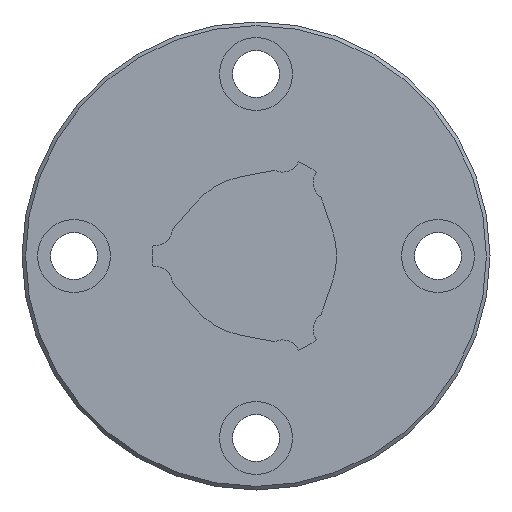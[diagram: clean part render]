
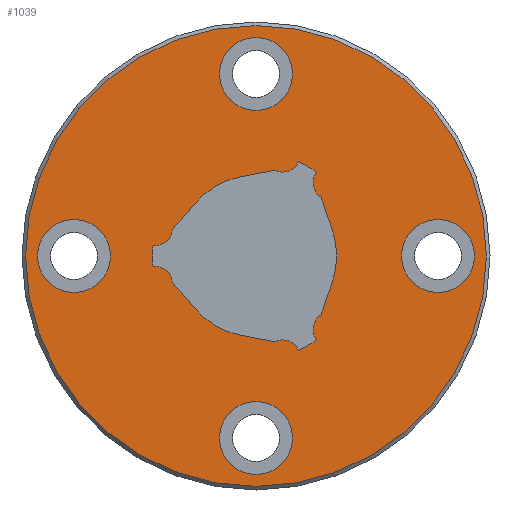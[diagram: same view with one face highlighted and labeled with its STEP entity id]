
A CAD part, left-side view. The second image highlights one B-rep face of the part: STEP entity #1039.
In plain terms, the highlighted planar face has unit normal (-1, 0, 0).
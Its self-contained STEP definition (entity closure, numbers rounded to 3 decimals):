
#45=PLANE('',#1156);
#91=LINE('',#1728,#151);
#92=LINE('',#1737,#152);
#93=LINE('',#1741,#153);
#94=LINE('',#1749,#154);
#95=LINE('',#1753,#155);
#96=LINE('',#1761,#156);
#151=VECTOR('',#1389,1000.);
#152=VECTOR('',#1396,1000.);
#153=VECTOR('',#1399,1000.);
#154=VECTOR('',#1406,1000.);
#155=VECTOR('',#1409,1000.);
#156=VECTOR('',#1416,1000.);
#289=ORIENTED_EDGE('',*,*,#513,.F.);
#290=ORIENTED_EDGE('',*,*,#514,.F.);
#291=ORIENTED_EDGE('',*,*,#515,.T.);
#292=ORIENTED_EDGE('',*,*,#516,.T.);
#293=ORIENTED_EDGE('',*,*,#517,.T.);
#294=ORIENTED_EDGE('',*,*,#518,.T.);
#295=ORIENTED_EDGE('',*,*,#519,.F.);
#296=ORIENTED_EDGE('',*,*,#520,.T.);
#297=ORIENTED_EDGE('',*,*,#521,.F.);
#298=ORIENTED_EDGE('',*,*,#522,.T.);
#299=ORIENTED_EDGE('',*,*,#523,.T.);
#300=ORIENTED_EDGE('',*,*,#524,.T.);
#301=ORIENTED_EDGE('',*,*,#525,.F.);
#302=ORIENTED_EDGE('',*,*,#526,.T.);
#303=ORIENTED_EDGE('',*,*,#527,.F.);
#304=ORIENTED_EDGE('',*,*,#528,.T.);
#305=ORIENTED_EDGE('',*,*,#529,.T.);
#306=ORIENTED_EDGE('',*,*,#530,.T.);
#307=ORIENTED_EDGE('',*,*,#531,.F.);
#308=ORIENTED_EDGE('',*,*,#532,.T.);
#309=ORIENTED_EDGE('',*,*,#533,.F.);
#310=ORIENTED_EDGE('',*,*,#534,.T.);
#311=ORIENTED_EDGE('',*,*,#535,.T.);
#513=EDGE_CURVE('',#634,#634,#725,.T.);
#514=EDGE_CURVE('',#635,#635,#726,.F.);
#515=EDGE_CURVE('',#636,#636,#727,.T.);
#516=EDGE_CURVE('',#637,#637,#728,.T.);
#517=EDGE_CURVE('',#638,#638,#729,.T.);
#518=EDGE_CURVE('',#639,#640,#91,.T.);
#519=EDGE_CURVE('',#641,#640,#730,.T.);
#520=EDGE_CURVE('',#641,#642,#731,.T.);
#521=EDGE_CURVE('',#643,#642,#732,.T.);
#522=EDGE_CURVE('',#643,#644,#92,.T.);
#523=EDGE_CURVE('',#644,#645,#733,.T.);
#524=EDGE_CURVE('',#645,#646,#93,.T.);
#525=EDGE_CURVE('',#647,#646,#734,.T.);
#526=EDGE_CURVE('',#647,#648,#735,.T.);
#527=EDGE_CURVE('',#649,#648,#736,.T.);
#528=EDGE_CURVE('',#649,#650,#94,.T.);
#529=EDGE_CURVE('',#650,#651,#737,.T.);
#530=EDGE_CURVE('',#651,#652,#95,.T.);
#531=EDGE_CURVE('',#653,#652,#738,.T.);
#532=EDGE_CURVE('',#653,#654,#739,.T.);
#533=EDGE_CURVE('',#655,#654,#740,.T.);
#534=EDGE_CURVE('',#655,#656,#96,.T.);
#535=EDGE_CURVE('',#656,#639,#741,.T.);
#634=VERTEX_POINT('',#1719);
#635=VERTEX_POINT('',#1721);
#636=VERTEX_POINT('',#1723);
#637=VERTEX_POINT('',#1725);
#638=VERTEX_POINT('',#1727);
#639=VERTEX_POINT('',#1729);
#640=VERTEX_POINT('',#1730);
#641=VERTEX_POINT('',#1732);
#642=VERTEX_POINT('',#1734);
#643=VERTEX_POINT('',#1736);
#644=VERTEX_POINT('',#1738);
#645=VERTEX_POINT('',#1740);
#646=VERTEX_POINT('',#1742);
#647=VERTEX_POINT('',#1744);
#648=VERTEX_POINT('',#1746);
#649=VERTEX_POINT('',#1748);
#650=VERTEX_POINT('',#1750);
#651=VERTEX_POINT('',#1752);
#652=VERTEX_POINT('',#1754);
#653=VERTEX_POINT('',#1756);
#654=VERTEX_POINT('',#1758);
#655=VERTEX_POINT('',#1760);
#656=VERTEX_POINT('',#1762);
#725=CIRCLE('',#1157,44.3);
#726=CIRCLE('',#1158,7.);
#727=CIRCLE('',#1159,7.);
#728=CIRCLE('',#1160,7.);
#729=CIRCLE('',#1161,7.);
#730=CIRCLE('',#1162,3.3);
#731=CIRCLE('',#1163,19.9);
#732=CIRCLE('',#1164,3.3);
#733=CIRCLE('',#1165,15.5);
#734=CIRCLE('',#1166,3.3);
#735=CIRCLE('',#1167,19.9);
#736=CIRCLE('',#1168,3.3);
#737=CIRCLE('',#1169,15.5);
#738=CIRCLE('',#1170,3.3);
#739=CIRCLE('',#1171,19.9);
#740=CIRCLE('',#1172,3.3);
#741=CIRCLE('',#1173,15.5);
#797=EDGE_LOOP('',(#289));
#798=EDGE_LOOP('',(#290));
#799=EDGE_LOOP('',(#291));
#800=EDGE_LOOP('',(#292));
#801=EDGE_LOOP('',(#293));
#802=EDGE_LOOP('',(#294,#295,#296,#297,#298,#299,#300,#301,#302,#303,#304,
#305,#306,#307,#308,#309,#310,#311));
#899=FACE_BOUND('',#797,.T.);
#900=FACE_BOUND('',#798,.T.);
#901=FACE_BOUND('',#799,.T.);
#902=FACE_BOUND('',#800,.T.);
#903=FACE_BOUND('',#801,.T.);
#904=FACE_BOUND('',#802,.T.);
#1039=ADVANCED_FACE('',(#899,#900,#901,#902,#903,#904),#45,.F.);
#1156=AXIS2_PLACEMENT_3D('',#1717,#1377,#1378);
#1157=AXIS2_PLACEMENT_3D('',#1718,#1379,#1380);
#1158=AXIS2_PLACEMENT_3D('',#1720,#1381,#1382);
#1159=AXIS2_PLACEMENT_3D('',#1722,#1383,#1384);
#1160=AXIS2_PLACEMENT_3D('',#1724,#1385,#1386);
#1161=AXIS2_PLACEMENT_3D('',#1726,#1387,#1388);
#1162=AXIS2_PLACEMENT_3D('',#1731,#1390,#1391);
#1163=AXIS2_PLACEMENT_3D('',#1733,#1392,#1393);
#1164=AXIS2_PLACEMENT_3D('',#1735,#1394,#1395);
#1165=AXIS2_PLACEMENT_3D('',#1739,#1397,#1398);
#1166=AXIS2_PLACEMENT_3D('',#1743,#1400,#1401);
#1167=AXIS2_PLACEMENT_3D('',#1745,#1402,#1403);
#1168=AXIS2_PLACEMENT_3D('',#1747,#1404,#1405);
#1169=AXIS2_PLACEMENT_3D('',#1751,#1407,#1408);
#1170=AXIS2_PLACEMENT_3D('',#1755,#1410,#1411);
#1171=AXIS2_PLACEMENT_3D('',#1757,#1412,#1413);
#1172=AXIS2_PLACEMENT_3D('',#1759,#1414,#1415);
#1173=AXIS2_PLACEMENT_3D('',#1763,#1417,#1418);
#1377=DIRECTION('',(1.,0.,0.));
#1378=DIRECTION('',(0.,1.,0.));
#1379=DIRECTION('',(1.,0.,0.));
#1380=DIRECTION('',(0.,1.,0.));
#1381=DIRECTION('',(1.,0.,0.));
#1382=DIRECTION('',(0.,1.,0.));
#1383=DIRECTION('',(1.,0.,0.));
#1384=DIRECTION('',(0.,0.,-1.));
#1385=DIRECTION('',(1.,0.,0.));
#1386=DIRECTION('',(0.,0.,-1.));
#1387=DIRECTION('',(1.,0.,0.));
#1388=DIRECTION('',(0.,0.,-1.));
#1389=DIRECTION('',(0.,-0.982,0.191));
#1390=DIRECTION('',(1.,0.,0.));
#1391=DIRECTION('',(0.,0.,-1.));
#1392=DIRECTION('',(1.,0.,0.));
#1393=DIRECTION('',(0.,0.,-1.));
#1394=DIRECTION('',(1.,0.,0.));
#1395=DIRECTION('',(0.,0.,-1.));
#1396=DIRECTION('',(0.,-0.326,-0.946));
#1397=DIRECTION('',(1.,0.,0.));
#1398=DIRECTION('',(0.,0.,-1.));
#1399=DIRECTION('',(0.,0.326,-0.946));
#1400=DIRECTION('',(1.,0.,0.));
#1401=DIRECTION('',(0.,0.,-1.));
#1402=DIRECTION('',(1.,0.,0.));
#1403=DIRECTION('',(0.,0.,-1.));
#1404=DIRECTION('',(1.,0.,0.));
#1405=DIRECTION('',(0.,0.,-1.));
#1406=DIRECTION('',(0.,0.982,0.191));
#1407=DIRECTION('',(1.,0.,0.));
#1408=DIRECTION('',(0.,0.,-1.));
#1409=DIRECTION('',(0.,0.656,0.755));
#1410=DIRECTION('',(1.,0.,0.));
#1411=DIRECTION('',(0.,0.,-1.));
#1412=DIRECTION('',(1.,0.,0.));
#1413=DIRECTION('',(0.,0.,-1.));
#1414=DIRECTION('',(1.,0.,0.));
#1415=DIRECTION('',(0.,0.,-1.));
#1416=DIRECTION('',(0.,-0.656,0.755));
#1417=DIRECTION('',(1.,0.,0.));
#1418=DIRECTION('',(0.,0.,-1.));
#1717=CARTESIAN_POINT('',(0.,0.,0.));
#1718=CARTESIAN_POINT('',(0.,0.,0.));
#1719=CARTESIAN_POINT('',(0.,44.3,0.));
#1720=CARTESIAN_POINT('',(0.,35.,0.));
#1721=CARTESIAN_POINT('',(0.,42.,0.));
#1722=CARTESIAN_POINT('',(0.,0.,35.));
#1723=CARTESIAN_POINT('',(0.,0.,28.));
#1724=CARTESIAN_POINT('',(0.,-35.,0.));
#1725=CARTESIAN_POINT('',(0.,-35.,-7.));
#1726=CARTESIAN_POINT('',(0.,0.,-35.));
#1727=CARTESIAN_POINT('',(0.,0.,-42.));
#1728=CARTESIAN_POINT('',(0.,2.958,15.215));
#1729=CARTESIAN_POINT('',(0.,2.958,15.215));
#1730=CARTESIAN_POINT('',(0.,-3.606,16.491));
#1731=CARTESIAN_POINT('',(0.,-5.114,19.427));
#1732=CARTESIAN_POINT('',(0.,-8.157,18.151));
#1733=CARTESIAN_POINT('',(0.,0.,0.));
#1734=CARTESIAN_POINT('',(0.,-11.641,16.14));
#1735=CARTESIAN_POINT('',(0.,-14.267,14.142));
#1736=CARTESIAN_POINT('',(0.,-12.479,11.369));
#1737=CARTESIAN_POINT('',(0.,-12.479,11.369));
#1738=CARTESIAN_POINT('',(0.,-14.656,5.046));
#1739=CARTESIAN_POINT('',(0.,0.,0.));
#1740=CARTESIAN_POINT('',(0.,-14.656,-5.046));
#1741=CARTESIAN_POINT('',(0.,-14.656,-5.046));
#1742=CARTESIAN_POINT('',(0.,-12.479,-11.369));
#1743=CARTESIAN_POINT('',(0.,-14.267,-14.142));
#1744=CARTESIAN_POINT('',(0.,-11.641,-16.14));
#1745=CARTESIAN_POINT('',(0.,0.,0.));
#1746=CARTESIAN_POINT('',(0.,-8.157,-18.151));
#1747=CARTESIAN_POINT('',(0.,-5.114,-19.427));
#1748=CARTESIAN_POINT('',(0.,-3.606,-16.491));
#1749=CARTESIAN_POINT('',(0.,-3.606,-16.491));
#1750=CARTESIAN_POINT('',(0.,2.958,-15.215));
#1751=CARTESIAN_POINT('',(0.,0.,0.));
#1752=CARTESIAN_POINT('',(0.,11.698,-10.169));
#1753=CARTESIAN_POINT('',(0.,11.698,-10.169));
#1754=CARTESIAN_POINT('',(0.,16.085,-5.122));
#1755=CARTESIAN_POINT('',(0.,19.381,-5.285));
#1756=CARTESIAN_POINT('',(0.,19.798,-2.011));
#1757=CARTESIAN_POINT('',(0.,0.,0.));
#1758=CARTESIAN_POINT('',(0.,19.798,2.011));
#1759=CARTESIAN_POINT('',(0.,19.381,5.285));
#1760=CARTESIAN_POINT('',(0.,16.085,5.122));
#1761=CARTESIAN_POINT('',(0.,16.085,5.122));
#1762=CARTESIAN_POINT('',(0.,11.698,10.169));
#1763=CARTESIAN_POINT('',(0.,0.,0.));
